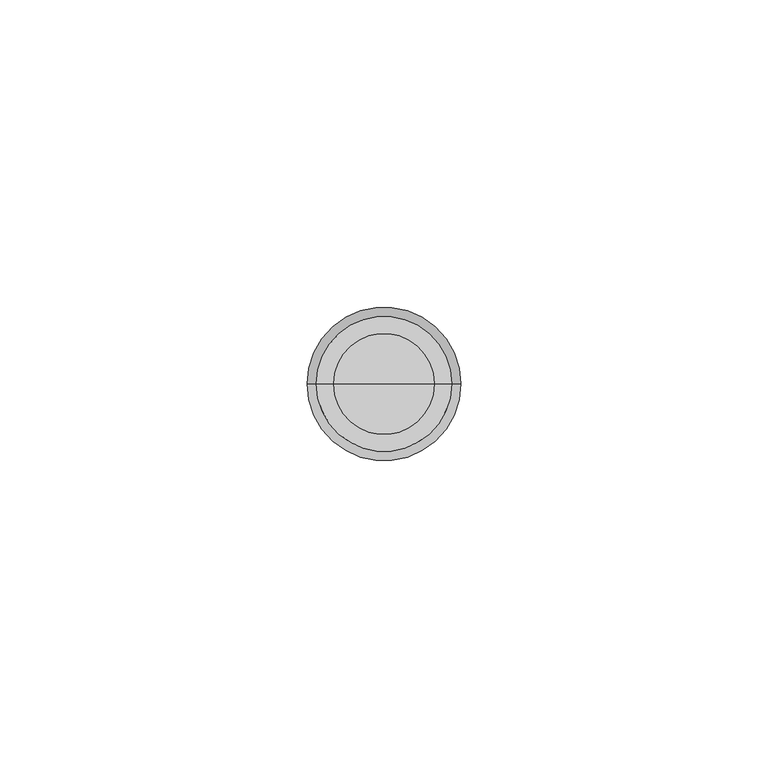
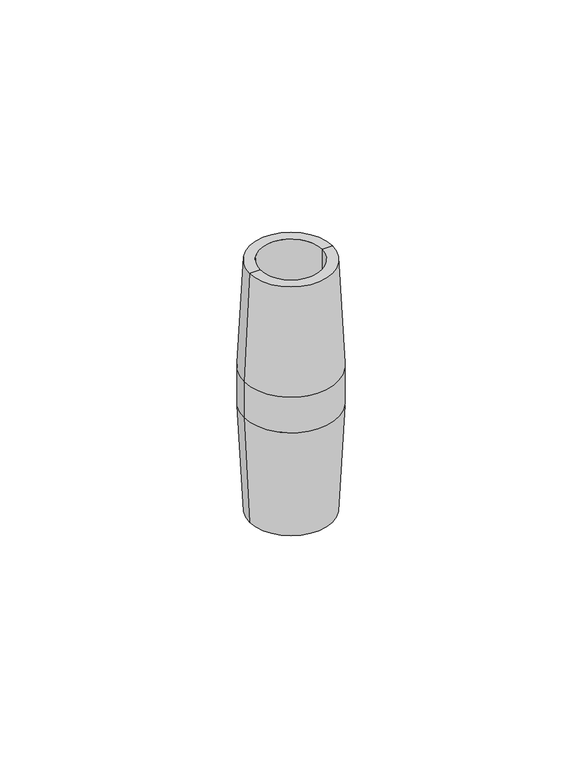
"""IFC4 building model written with IfcOpenShell, lengths in millimetres: proxy geometry, КНС_МуфтаСоединительная_DKC : NE1304_Латунь_D16."""

from ifc_helpers import new_model, si_unit, frame, origin, place, context, project, spatial, polyline, circle_curve, source, transform, mapped, element, save
from ifc_brep_helpers import plane_surface, cylinder_surface, revolved_surface, advanced_brep


def security_devices_9e177451(model_context):
    return source(origin(), model_context, "Body", "AdvancedBrep", [
        advanced_brep(
        [(0.0, 0.0, 0.0), (-8.25, 0.0, 0.0), (8.25, 0.0, 0.0), (8.25, 0.0, 10.0), (-8.25, 0.0, 10.0), (0.0, 0.0, 10.0), (8.25, 0.0, 40.0), (-8.25, 0.0, 40.0), (11.0, 0.0, 40.0), (-11.0, 0.0, 40.0), (12.5, 0.0, 0.0), (-12.5, 0.0, 0.0), (-12.5, 0.0, 10.0), (12.5, 0.0, 10.0), (11.0, 0.0, -30.0), (-11.0, 0.0, -30.0), (8.25, 0.0, -30.0), (-8.25, 0.0, -30.0)],
        [
            (0, 1),
            (1, 2, circle_curve(frame((0.0, 0.0, 0.0), z_axis=(0.0, 0.0, -1.0), x_axis=(-1.0, 0.0, 0.0)), 8.25)),
            (2, 0),
            (2, 1, circle_curve(frame((0.0, 0.0, 0.0), z_axis=(0.0, 0.0, -1.0), x_axis=(-1.0, 0.0, 0.0)), 8.25)),
            (3, 4, circle_curve(frame((0.0, 0.0, 10.0), z_axis=(0.0, 0.0, 1.0), x_axis=(-1.0, 0.0, 0.0)), 8.25)),
            (4, 5),
            (5, 3),
            (4, 3, circle_curve(frame((0.0, 0.0, 10.0), z_axis=(0.0, 0.0, 1.0), x_axis=(-1.0, 0.0, 0.0)), 8.25)),
            (6, 7, circle_curve(frame((0.0, 0.0, 40.0), z_axis=(0.0, 0.0, 1.0), x_axis=(-1.0, 0.0, 0.0)), 8.25)),
            (7, 4),
            (3, 6),
            (7, 6, circle_curve(frame((0.0, 0.0, 40.0), z_axis=(0.0, 0.0, 1.0), x_axis=(-1.0, 0.0, 0.0)), 8.25)),
            (8, 9, circle_curve(frame((0.0, 0.0, 40.0), z_axis=(0.0, 0.0, 1.0), x_axis=(-1.0, 0.0, 0.0)), 11.0)),
            (9, 7),
            (6, 8),
            (9, 8, circle_curve(frame((0.0, 0.0, 40.0), z_axis=(0.0, 0.0, 1.0), x_axis=(-1.0, 0.0, 0.0)), 11.0)),
            (10, 11, circle_curve(frame((0.0, 0.0, 0.0), z_axis=(0.0, 0.0, 1.0), x_axis=(-1.0, 0.0, 0.0)), 12.5)),
            (11, 12),
            (12, 13, circle_curve(frame((0.0, 0.0, 10.0), z_axis=(0.0, 0.0, -1.0), x_axis=(-1.0, 0.0, 0.0)), 12.5)),
            (13, 10),
            (11, 10, circle_curve(frame((0.0, 0.0, 0.0), z_axis=(0.0, 0.0, 1.0), x_axis=(-1.0, 0.0, 0.0)), 12.5)),
            (13, 12, circle_curve(frame((0.0, 0.0, 10.0), z_axis=(0.0, 0.0, -1.0), x_axis=(-1.0, 0.0, 0.0)), 12.5)),
            (14, 15, circle_curve(frame((0.0, 0.0, -30.0), z_axis=(0.0, 0.0, 1.0), x_axis=(-1.0, 0.0, 0.0)), 11.0)),
            (15, 11),
            (10, 14),
            (15, 14, circle_curve(frame((0.0, 0.0, -30.0), z_axis=(0.0, 0.0, 1.0), x_axis=(-1.0, 0.0, 0.0)), 11.0)),
            (16, 17, circle_curve(frame((0.0, 0.0, -30.0), z_axis=(0.0, 0.0, 1.0), x_axis=(-1.0, 0.0, 0.0)), 8.25)),
            (17, 15),
            (14, 16),
            (17, 16, circle_curve(frame((0.0, 0.0, -30.0), z_axis=(0.0, 0.0, 1.0), x_axis=(-1.0, 0.0, 0.0)), 8.25)),
            (1, 17),
            (16, 2),
            (12, 9),
            (8, 13),
        ],
        [
            plane_surface(frame((0.0, 0.0, 0.0), z_axis=(0.0, 0.0, -1.0), x_axis=(-1.0, 0.0, 0.0))),
            plane_surface(frame((0.0, 0.0, 10.0), z_axis=(0.0, 0.0, 1.0), x_axis=(-1.0, 0.0, 0.0))),
            revolved_surface(polyline([(-8.25, 0.0, 10.0), (-8.25, 0.0, 40.0)]), (0.0, 0.0, 17.4309863), (0.0, 0.0, -1.0)),
            plane_surface(frame((0.0, 0.0, 40.0), z_axis=(0.0, 0.0, 1.0), x_axis=(-1.0, 0.0, 0.0))),
            cylinder_surface(frame((0.0, 0.0, 17.4309863), z_axis=(0.0, 0.0, -1.0), x_axis=(-1.0, 0.0, 0.0)), 12.5),
            revolved_surface(polyline([(-12.5, 0.0, 0.0), (-11.0, 0.0, -30.0)]), (0.0, 0.0, 17.4309863), (0.0, 0.0, -1.0)),
            plane_surface(frame((0.0, 0.0, -30.0), z_axis=(0.0, 0.0, -1.0), x_axis=(-1.0, 0.0, 0.0))),
            revolved_surface(polyline([(-8.25, 0.0, -30.0), (-8.25, 0.0, 0.0)]), (0.0, 0.0, 17.4309863), (0.0, 0.0, -1.0)),
            revolved_surface(polyline([(-11.0, 0.0, 40.0), (-12.5, 0.0, 10.0)]), (0.0, 0.0, 17.4309863), (0.0, 0.0, -1.0)),
        ],
        [
            (0, [[1, 2, 3]]),
            (0, [[-3, 4, -1]]),
            (1, [[5, 6, 7]]),
            (1, [[8, -7, -6]]),
            (2, [[9, 10, -5, 11]]),
            (2, [[12, -11, -8, -10]]),
            (3, [[13, 14, -9, 15]]),
            (3, [[16, -15, -12, -14]]),
            (4, [[17, 18, 19, 20]]),
            (4, [[21, -20, 22, -18]]),
            (5, [[23, 24, -17, 25]]),
            (5, [[26, -25, -21, -24]]),
            (6, [[27, 28, -23, 29]]),
            (6, [[30, -29, -26, -28]]),
            (7, [[-2, 31, -27, 32]]),
            (7, [[-4, -32, -30, -31]]),
            (8, [[-19, 33, -13, 34]]),
            (8, [[-22, -34, -16, -33]]),
        ],
    ),
    ])


if __name__ == "__main__":
    model = new_model("IFC4")
    model_context = context("Model", 3, world=origin())
    ifc_project = project(units=[si_unit("LENGTHUNIT", "METRE", prefix="MILLI")], contexts=[model_context])
    site = spatial("IfcSite", under=ifc_project)
    building = spatial("IfcBuilding", under=site)
    placement = place(None, origin())
    security_devices_shape = security_devices_9e177451(model_context)
    element("IfcBuildingElementProxy", 1, Name="КНС_МуфтаСоединительная_DKC : NE1304_Латунь_D16", ObjectType="КНС_МуфтаСоединительная_DKC : NE1304_Латунь_D16", at=placement, inside=building, context=model_context, shape_type="MappedRepresentation", body=[
        mapped(security_devices_shape, transform((0.0, 0.0, 0.0), x_axis=(1.0, 0.0, 0.0), y_axis=(0.0, 1.0, 0.0), z_axis=(0.0, 0.0, 1.0))),
    ])
    save(model, "model.ifc")
